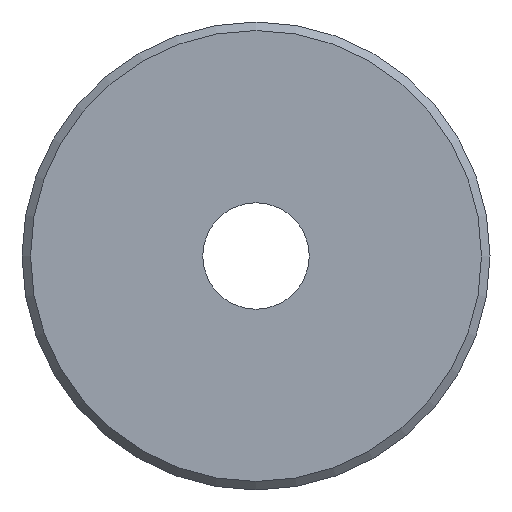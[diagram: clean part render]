
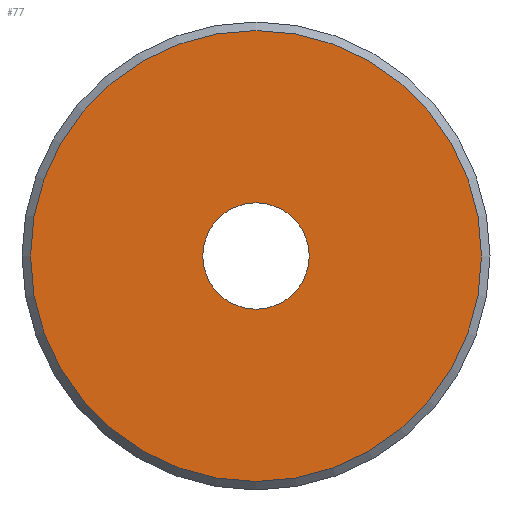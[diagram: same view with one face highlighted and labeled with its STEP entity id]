
A CAD part, front view. The second image highlights one B-rep face of the part: STEP entity #77.
In plain terms, the highlighted planar face has unit normal (0, -1, 0).
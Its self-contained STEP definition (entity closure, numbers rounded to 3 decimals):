
#21=FACE_BOUND('',#36,.T.);
#27=FACE_OUTER_BOUND('',#35,.T.);
#35=EDGE_LOOP('',(#65));
#36=EDGE_LOOP('',(#66));
#45=CIRCLE('',#87,12.5);
#46=CIRCLE('',#89,53.);
#51=VERTEX_POINT('',#128);
#52=VERTEX_POINT('',#131);
#57=EDGE_CURVE('',#51,#51,#45,.T.);
#58=EDGE_CURVE('',#52,#52,#46,.T.);
#65=ORIENTED_EDGE('',*,*,#58,.F.);
#66=ORIENTED_EDGE('',*,*,#57,.T.);
#74=PLANE('',#88);
#77=ADVANCED_FACE('',(#27,#21),#74,.T.);
#87=AXIS2_PLACEMENT_3D('',#129,#105,#106);
#88=AXIS2_PLACEMENT_3D('',#130,#107,#108);
#89=AXIS2_PLACEMENT_3D('',#132,#109,#110);
#105=DIRECTION('center_axis',(0.,1.,0.));
#106=DIRECTION('ref_axis',(1.,0.,0.));
#107=DIRECTION('center_axis',(0.,-1.,0.));
#108=DIRECTION('ref_axis',(0.,0.,-1.));
#109=DIRECTION('center_axis',(0.,1.,0.));
#110=DIRECTION('ref_axis',(1.,0.,0.));
#128=CARTESIAN_POINT('',(46.511,-2.326,0.));
#129=CARTESIAN_POINT('Origin',(59.011,-2.326,0.));
#130=CARTESIAN_POINT('Origin',(6.011,-2.326,0.));
#131=CARTESIAN_POINT('',(6.011,-2.326,0.));
#132=CARTESIAN_POINT('Origin',(59.011,-2.326,0.));
